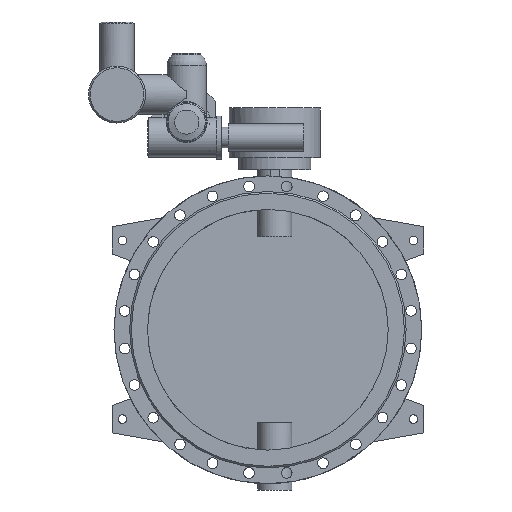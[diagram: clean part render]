
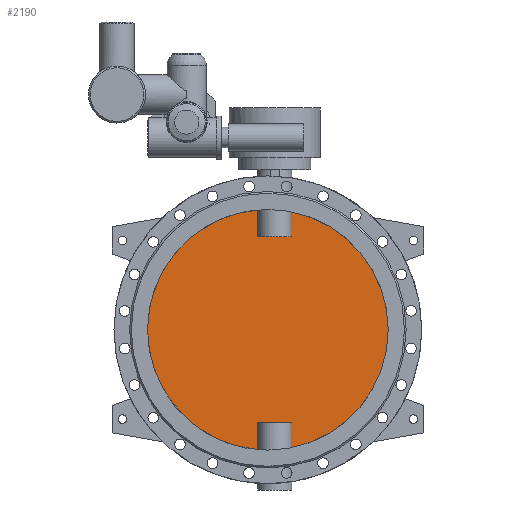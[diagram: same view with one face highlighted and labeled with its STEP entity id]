
A CAD part, front view. The second image highlights one B-rep face of the part: STEP entity #2190.
In plain terms, the highlighted planar face has unit normal (0, -1, 0).
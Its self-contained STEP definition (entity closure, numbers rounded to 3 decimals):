
#2190=ADVANCED_FACE('',(#4421),#4423,.F.);
#4421=FACE_BOUND('',#4422,.T.);
#4422=EDGE_LOOP('',(#5415,#5416,#5417,#5418,#5419,#5420,#5421,#5422));
#4423=PLANE('',#4424);
#4424=AXIS2_PLACEMENT_3D('',#4425,#4426,#4427);
#4425=CARTESIAN_POINT('',(0.,-5.,0.));
#4426=DIRECTION('',(0.,1.,0.));
#4427=DIRECTION('',(1.,0.,0.));
#5415=ORIENTED_EDGE('',*,*,#5913,.T.);
#5416=ORIENTED_EDGE('',*,*,#5918,.T.);
#5417=ORIENTED_EDGE('',*,*,#5919,.T.);
#5418=ORIENTED_EDGE('',*,*,#5920,.T.);
#5419=ORIENTED_EDGE('',*,*,#5915,.T.);
#5420=ORIENTED_EDGE('',*,*,#5921,.T.);
#5421=ORIENTED_EDGE('',*,*,#5922,.T.);
#5422=ORIENTED_EDGE('',*,*,#5923,.T.);
#5913=EDGE_CURVE('',#6791,#6792,#6793,.F.);
#5915=EDGE_CURVE('',#6796,#6794,#6797,.F.);
#5918=EDGE_CURVE('',#6792,#6801,#6802,.T.);
#5919=EDGE_CURVE('',#6801,#6803,#6804,.F.);
#5920=EDGE_CURVE('',#6803,#6796,#6805,.F.);
#5921=EDGE_CURVE('',#6794,#6806,#6807,.F.);
#5922=EDGE_CURVE('',#6806,#6808,#6809,.F.);
#5923=EDGE_CURVE('',#6808,#6791,#6810,.T.);
#6791=VERTEX_POINT('',#10917);
#6792=VERTEX_POINT('',#10918);
#6793=CIRCLE('',#10919,350.);
#6794=VERTEX_POINT('',#10923);
#6796=VERTEX_POINT('',#10965);
#6797=CIRCLE('',#10966,350.);
#6801=VERTEX_POINT('',#11084);
#6802=LINE('',#11085,#11086);
#6803=VERTEX_POINT('',#11088);
#6804=LINE('',#11089,#11090);
#6805=LINE('',#11092,#11093);
#6806=VERTEX_POINT('',#11095);
#6807=LINE('',#11096,#11097);
#6808=VERTEX_POINT('',#11099);
#6809=LINE('',#11100,#11101);
#6810=LINE('',#11103,#11104);
#10917=CARTESIAN_POINT('',(69.749,-5.,-342.98));
#10918=CARTESIAN_POINT('',(69.749,-5.,342.98));
#10919=AXIS2_PLACEMENT_3D('',#10920,#10921,#10922);
#10920=CARTESIAN_POINT('',(0.,-5.,0.));
#10921=DIRECTION('',(0.,1.,0.));
#10922=DIRECTION('',(0.199,0.,0.98));
#10923=CARTESIAN_POINT('',(-29.749,-5.,-348.733));
#10965=CARTESIAN_POINT('',(-29.749,-5.,348.733));
#10966=AXIS2_PLACEMENT_3D('',#10967,#10968,#10969);
#10967=CARTESIAN_POINT('',(0.,-5.,0.));
#10968=DIRECTION('',(0.,1.,0.));
#10969=DIRECTION('',(-0.085,0.,-0.996));
#11084=CARTESIAN_POINT('',(69.749,-5.,270.));
#11085=CARTESIAN_POINT('',(69.749,-5.,342.98));
#11086=VECTOR('',#11087,1.);
#11087=DIRECTION('',(0.,0.,-1.));
#11088=CARTESIAN_POINT('',(-29.749,-5.,270.));
#11089=CARTESIAN_POINT('',(-29.749,-5.,270.));
#11090=VECTOR('',#11091,1.);
#11091=DIRECTION('',(1.,0.,0.));
#11092=CARTESIAN_POINT('',(-29.749,-5.,348.733));
#11093=VECTOR('',#11094,1.);
#11094=DIRECTION('',(0.,0.,-1.));
#11095=CARTESIAN_POINT('',(-29.749,-5.,-270.));
#11096=CARTESIAN_POINT('',(-29.749,-5.,-270.));
#11097=VECTOR('',#11098,1.);
#11098=DIRECTION('',(0.,0.,-1.));
#11099=CARTESIAN_POINT('',(69.749,-5.,-270.));
#11100=CARTESIAN_POINT('',(69.749,-5.,-270.));
#11101=VECTOR('',#11102,1.);
#11102=DIRECTION('',(-1.,0.,0.));
#11103=CARTESIAN_POINT('',(69.749,-5.,-270.));
#11104=VECTOR('',#11105,1.);
#11105=DIRECTION('',(0.,0.,-1.));
